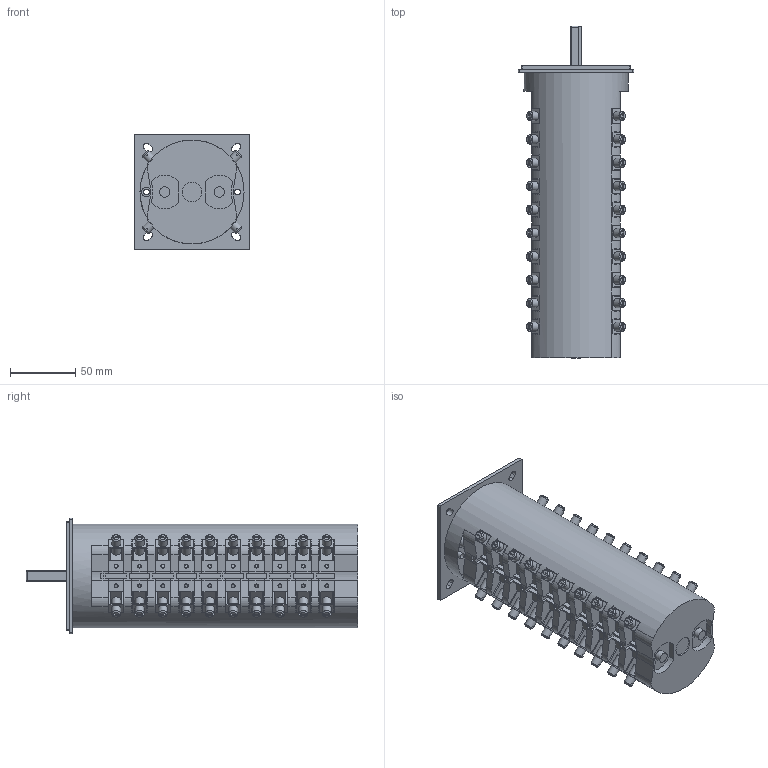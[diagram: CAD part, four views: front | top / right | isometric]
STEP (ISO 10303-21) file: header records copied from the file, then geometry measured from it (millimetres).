
FILE_DESCRIPTION(/* description */ (''),/* implementation_level */ '2;1');
FILE_NAME(/* name */ '4G80-U_10_korpusow.stp',/* time_stamp */ '2021-07-22T07:33:02+02:00',/* author */ (''),/* organization */ (''),/* preprocessor_version */ 'ST-DEVELOPER v18.1',/* originating_system */ 'SIEMENS PLM Software NX 1965',/* authorisation */ '');
FILE_SCHEMA (('AUTOMOTIVE_DESIGN { 1 0 10303 214 3 1 1 1 }'));
Length unit declared in the file: millimetre
Products named in the file (1): 4G80-U_10_korpusow_stp
Bounding box: 89.2 x 255.25 x 89.2 mm (x, y, z)
Volume: 903194.3 mm3; surface area: 183931.2 mm2
Topology: 1 solids, 73 shells, 1903 faces, 4886 edges, 3261 vertices
Faces by surface type: plane 1388, cylinder 392, cone 120, bspline 3
Full cylindrical faces by diameter (mm): 2.5 x40, 4.5 x2, 7 x80, 7.5 x2, 8 x4, 8.5 x2, 11.6 x2, 12 x3, 15 x1, 80 x1
Entity records: 58710 total; most frequent: CARTESIAN_POINT 13423, ORIENTED_EDGE 9130, DIRECTION 9129, EDGE_CURVE 4565, LINE 3299, VECTOR 3299, VERTEX_POINT 3130, AXIS2_PLACEMENT_3D 2915
